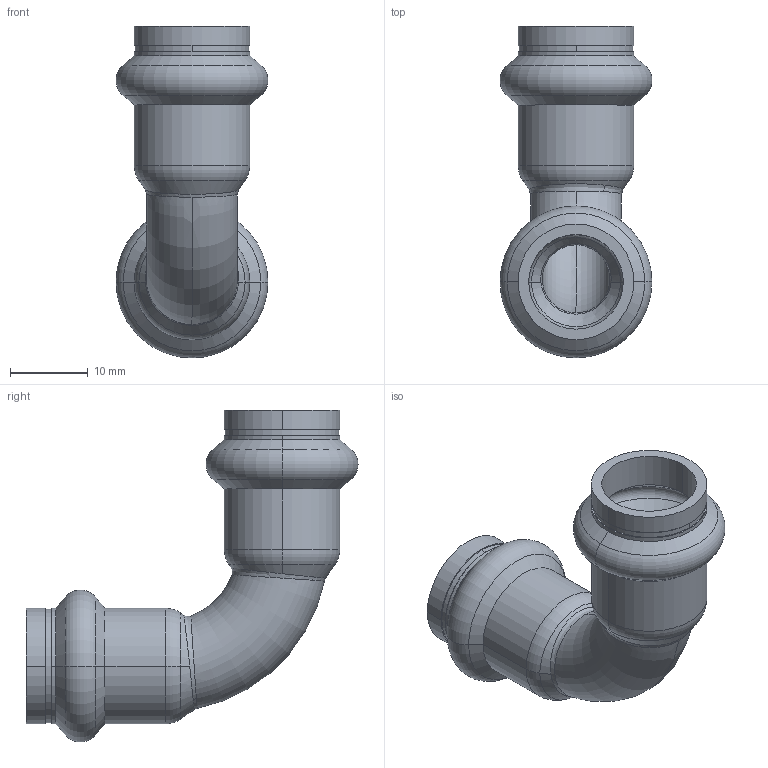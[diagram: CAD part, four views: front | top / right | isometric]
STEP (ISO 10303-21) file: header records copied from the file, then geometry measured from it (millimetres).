
FILE_DESCRIPTION (( 'STEP AP203' ), '1' );
FILE_NAME ('SP5002 Ø12.STEP', '2017-04-24T08:00:59', ( '' ), ( '' ), 'SwSTEP 2.0', 'SolidWorks 2016', '' );
FILE_SCHEMA (( 'CONFIG_CONTROL_DESIGN' ));
Length unit declared in the file: millimetre
Products named in the file (1): SP5002 ﾘ12
Bounding box: 19.58 x 42.79 x 42.79 mm (x, y, z)
Volume: 3665.2 mm3; surface area: 5460.2 mm2
Topology: 1 solids, 1 shells, 82 faces, 180 edges, 104 vertices
Faces by surface type: cone 24, cylinder 24, torus 20, bspline 8, plane 6
Entity records: 3844 total; most frequent: CARTESIAN_POINT 1986, DIRECTION 398, ORIENTED_EDGE 360, EDGE_CURVE 180, AXIS2_PLACEMENT_3D 175, VERTEX_POINT 104, CIRCLE 100, EDGE_LOOP 88
